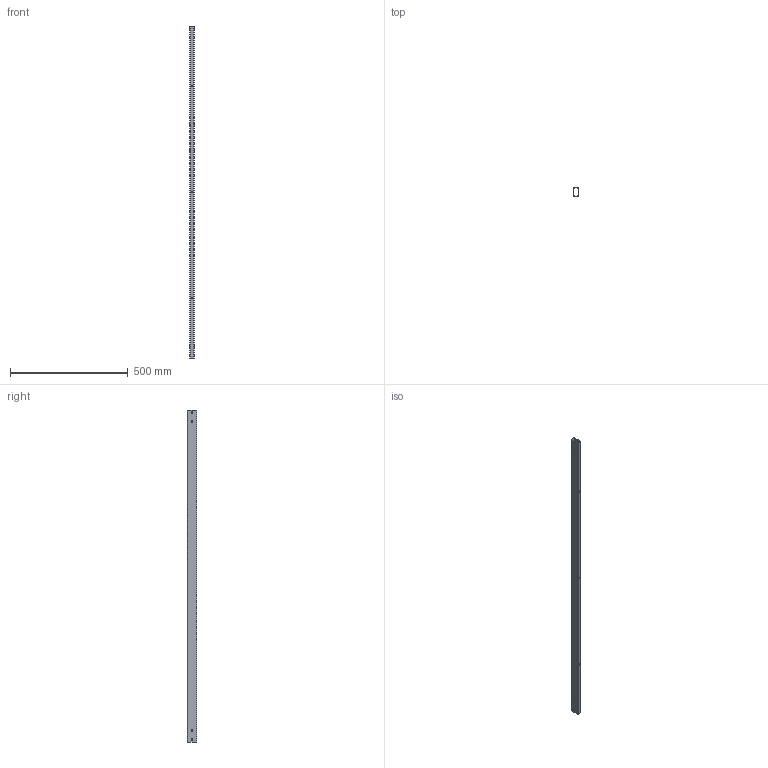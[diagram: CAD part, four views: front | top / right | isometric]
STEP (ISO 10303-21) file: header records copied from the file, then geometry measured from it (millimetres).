
FILE_DESCRIPTION (( 'STEP AP203' ), '1' );
FILE_NAME ('STRONG spojovací tyè EB16 40x20-1400_400049 a 400050 a 400051_3D.STEP', '2021-09-09T09:27:28', ( '' ), ( '' ), 'SwSTEP 2.0', 'SolidWorks 2019', '' );
FILE_SCHEMA (( 'CONFIG_CONTROL_DESIGN' ));
Length unit declared in the file: millimetre
Products named in the file (1): STRONG spojovací tyè EB16 40x20-1400_400049 a 400050 a 400051_3D
Bounding box: 20 x 40 x 1410 mm (x, y, z)
Volume: 232131.9 mm3; surface area: 310301.5 mm2
Topology: 1 solids, 1 shells, 46 faces, 132 edges, 88 vertices
Faces by surface type: cylinder 36, plane 10
Entity records: 1685 total; most frequent: DIRECTION 298, CARTESIAN_POINT 267, ORIENTED_EDGE 264, EDGE_CURVE 132, AXIS2_PLACEMENT_3D 119, VERTEX_POINT 88, EDGE_LOOP 76, CIRCLE 72
